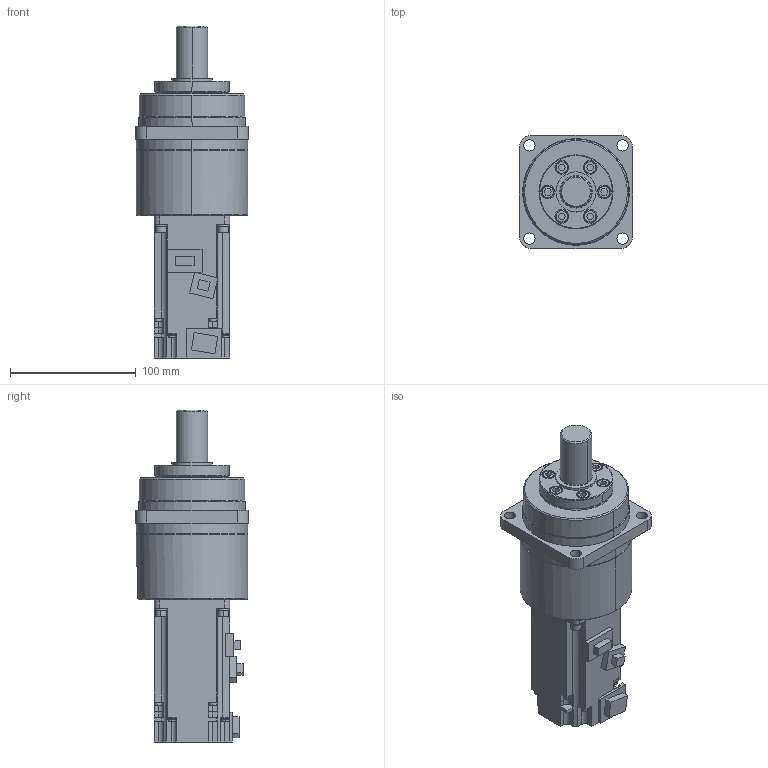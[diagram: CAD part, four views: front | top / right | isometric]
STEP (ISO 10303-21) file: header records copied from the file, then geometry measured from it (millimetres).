
FILE_DESCRIPTION((''),'2;1');
FILE_NAME('HG-KR23BG7_213345_','2012-03-21T',('BL67252'),(''),'PRO/ENGINEER BY PARAMETRIC TECHNOLOGY CORPORATION, 2009400','PRO/ENGINEER BY PARAMETRIC TECHNOLOGY CORPORATION, 2009400','');
FILE_SCHEMA(('CONFIG_CONTROL_DESIGN'));
Length unit declared in the file: millimetre
Products named in the file (1): HG-KR23BG7_213345_
Bounding box: 90 x 90 x 264.4 mm (x, y, z)
Volume: 1005467.5 mm3; surface area: 83794.3 mm2
Topology: 1 solids, 1 shells, 491 faces, 1222 edges, 810 vertices
Faces by surface type: plane 265, cylinder 178, cone 32, torus 16
Entity records: 14830 total; most frequent: DIRECTION 2669, CARTESIAN_POINT 2576, ORIENTED_EDGE 2444, EDGE_CURVE 1222, AXIS2_PLACEMENT_3D 962, VERTEX_POINT 810, VECTOR 745, LINE 745
